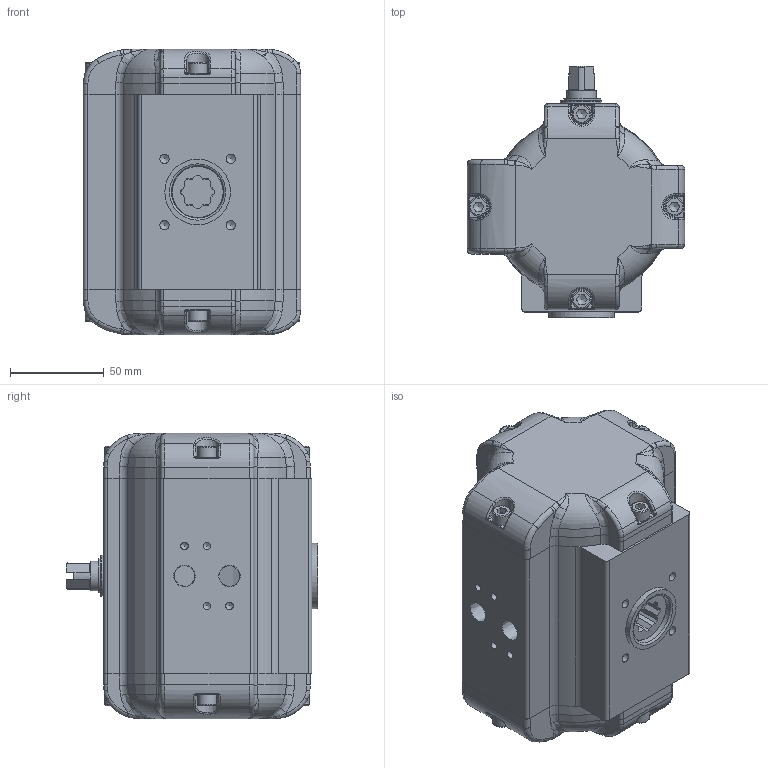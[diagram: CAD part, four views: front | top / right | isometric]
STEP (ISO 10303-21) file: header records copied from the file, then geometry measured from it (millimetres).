
FILE_DESCRIPTION((''),'2;1');
FILE_NAME('C:\Dokumente und Einstellungen\kir\Desktop\STEP IGES\SAD\SAD 15 BR03.stp','2006-12-19T08:12:49',('kir'),(''),'Autodesk Inventor 10','Autodesk Inventor 10','');
FILE_SCHEMA(('AUTOMOTIVE_DESIGN { 1 0 10303 214 1 1 1 1 }'));
Length unit declared in the file: millimetre
Products named in the file (1): ENG-039875
Bounding box: 116 x 134 x 152.3 mm (x, y, z)
Volume: 517482.9 mm3; surface area: 148032.2 mm2
Topology: 18 solids, 18 shells, 827 faces, 2031 edges, 1224 vertices
Faces by surface type: plane 246, bspline 237, cylinder 217, torus 84, cone 43
Full cylindrical faces by diameter (mm): 1.7 x2, 4.917 x4, 6 x8, 6.5 x6, 10 x8, 11.8 x2, 12 x1, 14 x1, 14.9 x1, 15.8 x3, 16.1 x1, 20 x1, 22 x2, 23.8 x2, 24 x1, 27.8 x3, 35 x1, 82 x1, 85 x1, 90.454 x2
Entity records: 48865 total; most frequent: CARTESIAN_POINT 31894, ORIENTED_EDGE 3510, DIRECTION 3272, EDGE_CURVE 1755, AXIS2_PLACEMENT_3D 1350, VERTEX_POINT 1125, EDGE_LOOP 1014, FACE_OUTER_BOUND 827
